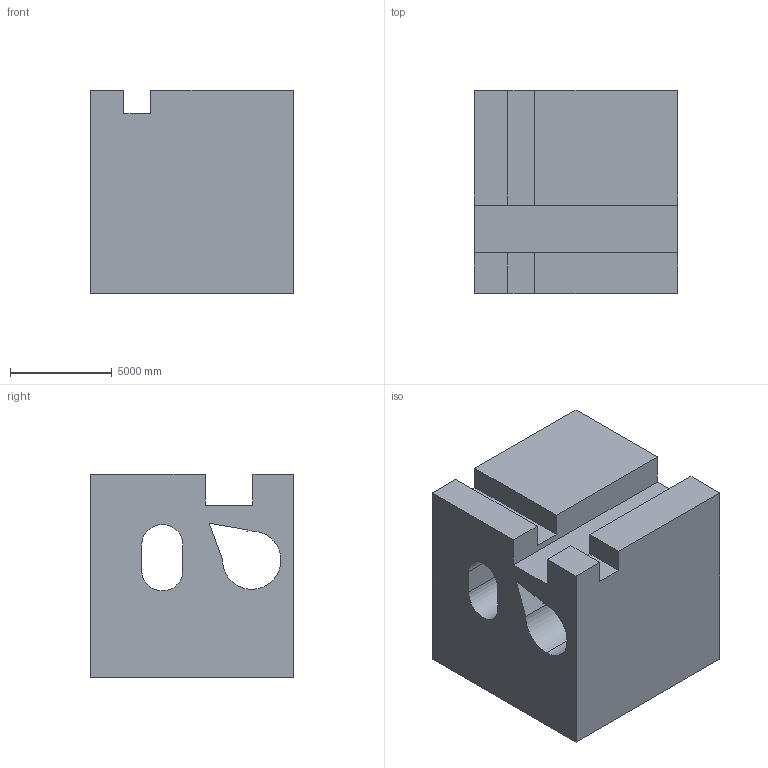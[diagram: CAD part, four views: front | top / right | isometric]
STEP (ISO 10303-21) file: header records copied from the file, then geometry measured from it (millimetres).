
FILE_DESCRIPTION (( 'STEP AP203' ), '1' );
FILE_NAME ('497.STEP', '2022-07-29T11:31:15', ( 'user' ), ( '' ), 'SwSTEP 2.0', 'SolidWorks 2021', '' );
FILE_SCHEMA (( 'CONFIG_CONTROL_DESIGN' ));
Length unit declared in the file: centimetre
Products named in the file (1): 497
Bounding box: 10000 x 10000 x 10000 mm (x, y, z)
Volume: 818763829970.4 mm3; surface area: 806234419.8 mm2
Topology: 1 solids, 1 shells, 29 faces, 81 edges, 54 vertices
Faces by surface type: plane 23, cylinder 6
Entity records: 1012 total; most frequent: CARTESIAN_POINT 165, ORIENTED_EDGE 162, DIRECTION 153, EDGE_CURVE 81, VECTOR 69, LINE 69, VERTEX_POINT 54, AXIS2_PLACEMENT_3D 42
